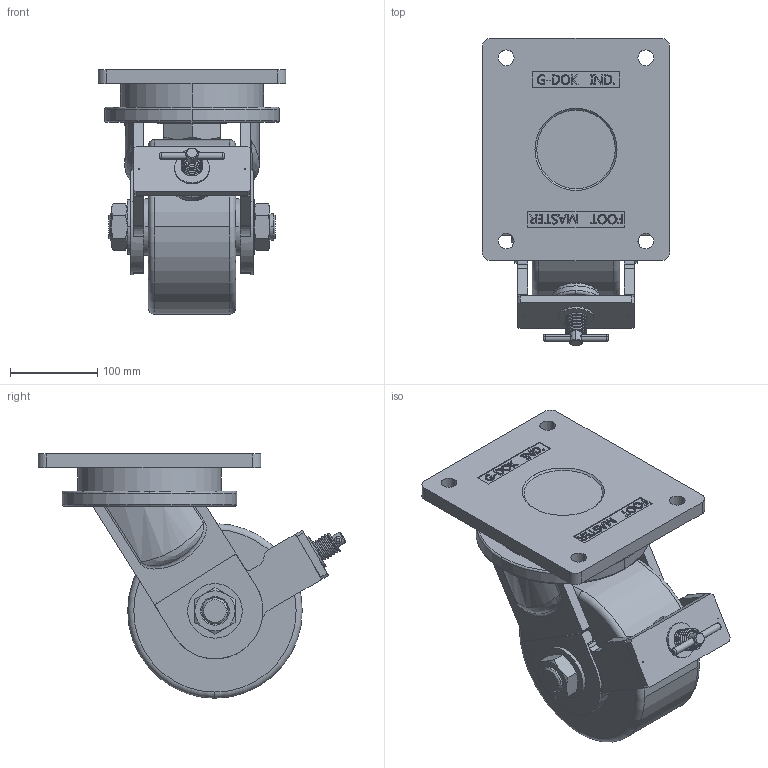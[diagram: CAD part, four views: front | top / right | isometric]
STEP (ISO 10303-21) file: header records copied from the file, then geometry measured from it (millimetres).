
FILE_DESCRIPTION((''),'2;1');
FILE_NAME('UGXT-200 B SF-3D-IN.stp','2011-11-22T13:16:48',(''),(''),'Mechanical Desktop 2009','Mechanical Desktop 2009',', , ');
FILE_SCHEMA(('CONFIG_CONTROL_DESIGN'));
Length unit declared in the file: millimetre
Products named in the file (15): UGXT-200 B SF-3D-IN; UGXT-200 B SF-3D; UGXT-BRAKE SUB ASSY; GXT-BRAKE-BRACKET; GXT-BRAKE-BOLT-M20; GXT-BRAKE-HANDLE; GXT-BRAKE-PAD-D58; D58辨-堅鼠檣賦お; D58辨-PAD; 睡ヶ1; 3D-D58辨-堅鼠; M20-3謙-NUT; WASHER-D27XD13X1.5T-S130; WASHER-D40XD21X2.6T-PH MCD; GXT-BRAKE-SPRING
Assembly tree (14 placements, depth 5):
  UGXT-200 B SF-3D-IN
    UGXT-200 B SF-3D
    UGXT-BRAKE SUB ASSY
      GXT-BRAKE-BRACKET
      GXT-BRAKE-BOLT-M20
      GXT-BRAKE-HANDLE
      GXT-BRAKE-PAD-D58
        D58辨-堅鼠檣賦お
        D58辨-PAD
          睡ヶ1
        3D-D58辨-堅鼠
      M20-3謙-NUT
      WASHER-D27XD13X1.5T-S130
      WASHER-D40XD21X2.6T-PH MCD
      GXT-BRAKE-SPRING
Bounding box: 215 x 352.38 x 280 mm (x, y, z)
Volume: 6022543.9 mm3; surface area: 466935.6 mm2
Topology: 13 solids, 19 shells, 718 faces, 1813 edges, 1187 vertices
Faces by surface type: plane 331, bspline 188, cylinder 125, cone 48, torus 26
Entity records: 26277 total; most frequent: CARTESIAN_POINT 9506, ORIENTED_EDGE 3626, DIRECTION 3021, EDGE_CURVE 1813, VERTEX_POINT 1187, VECTOR 1061, LINE 1061, AXIS2_PLACEMENT_3D 980
